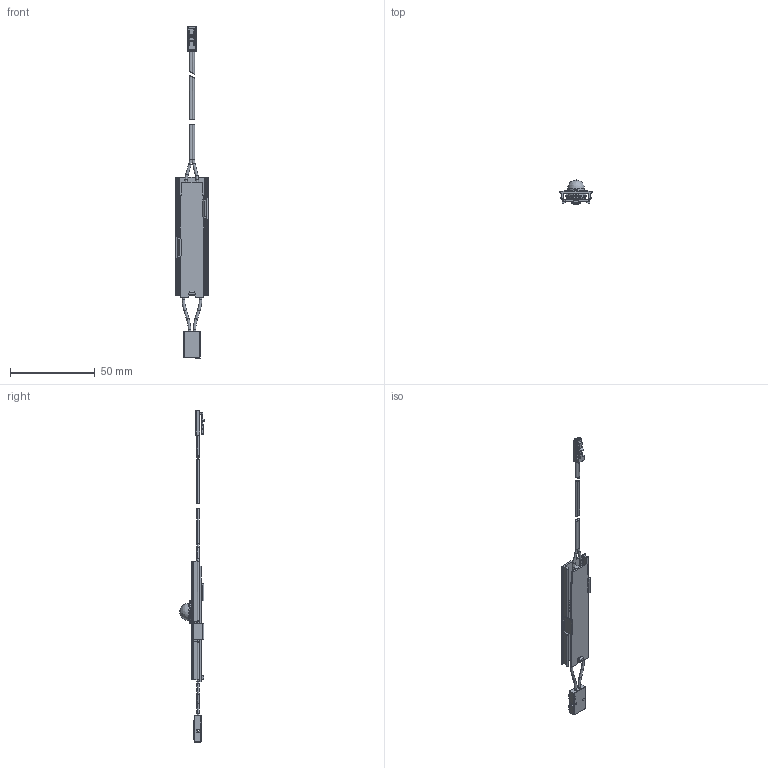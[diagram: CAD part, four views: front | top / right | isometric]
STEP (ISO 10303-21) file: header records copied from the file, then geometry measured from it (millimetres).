
FILE_DESCRIPTION (( 'STEP AP203' ), '1' );
FILE_NAME ('ChannelLine_PIRSensor_24.STEP', '2024-11-29T05:25:03', ( '' ), ( '' ), 'SwSTEP 2.0', 'SolidWorks 2023', '' );
FILE_SCHEMA (( 'CONFIG_CONTROL_DESIGN' ));
Length unit declared in the file: millimetre
Products named in the file (7): 4736001_PCB; LED_Stecker_MG_l= 40mm; Fresnel-Linse 8308-4; 3637321_Gehäuse_Leitung_im_Gehäuse; 2585401; ChannelLine_PIRSensor_24; 4736001
Assembly tree (6 placements, depth 3):
  ChannelLine_PIRSensor_24
    2585401
    Fresnel-Linse 8308-4
    4736001
      4736001_PCB
      LED_Stecker_MG_l= 40mm
    3637321_Gehäuse_Leitung_im_Gehäuse
Bounding box: 19.2 x 14.41 x 195.6 mm (x, y, z)
Volume: 4529.6 mm3; surface area: 9632.9 mm2
Topology: 38 solids, 38 shells, 848 faces, 2088 edges, 1271 vertices
Faces by surface type: plane 455, cylinder 254, torus 64, bspline 44, sphere 31
Entity records: 27279 total; most frequent: CARTESIAN_POINT 6837, DIRECTION 4112, ORIENTED_EDGE 4080, EDGE_CURVE 2040, AXIS2_PLACEMENT_3D 1376, LINE 1360, VECTOR 1360, VERTEX_POINT 1271
